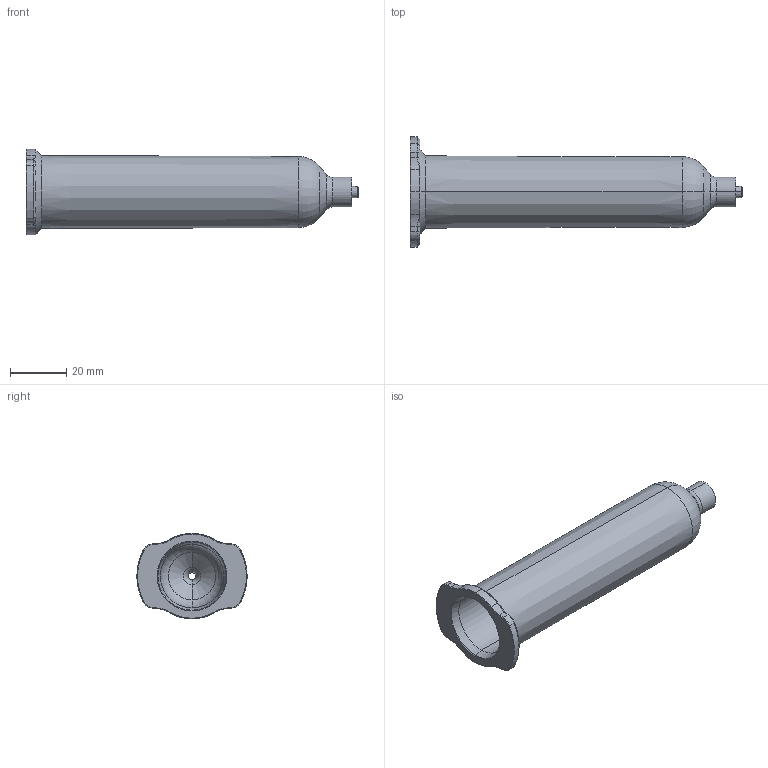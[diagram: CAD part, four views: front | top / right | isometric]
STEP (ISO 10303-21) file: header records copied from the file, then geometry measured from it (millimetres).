
FILE_DESCRIPTION (( 'STEP AP214' ), '1' );
FILE_NAME ('8001048_CUS.STEP', '2022-06-04T14:40:41', ( '' ), ( '' ), 'SwSTEP 2.0', 'SolidWorks 2020', '' );
FILE_SCHEMA (( 'AUTOMOTIVE_DESIGN' ));
Length unit declared in the file: millimetre
Products named in the file (1): 8001048_CUS
Bounding box: 117.7 x 39.17 x 30.35 mm (x, y, z)
Volume: 13964.8 mm3; surface area: 17835 mm2
Topology: 1 solids, 1 shells, 398 faces, 940 edges, 563 vertices
Faces by surface type: plane 105, cone 95, torus 86, cylinder 82, bspline 30
Entity records: 13355 total; most frequent: CARTESIAN_POINT 4176, DIRECTION 1999, ORIENTED_EDGE 1880, EDGE_CURVE 940, AXIS2_PLACEMENT_3D 786, VERTEX_POINT 563, VECTOR 427, LINE 427
